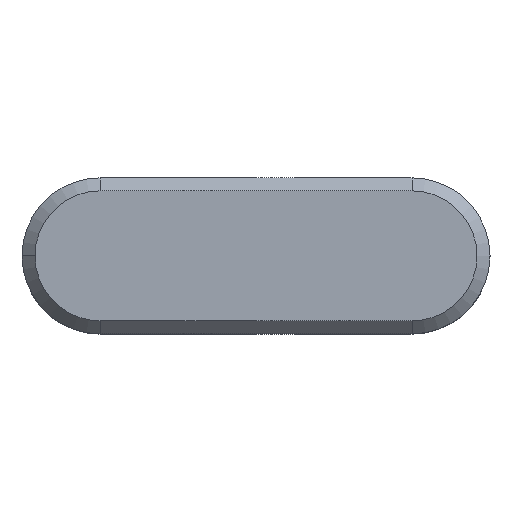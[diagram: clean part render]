
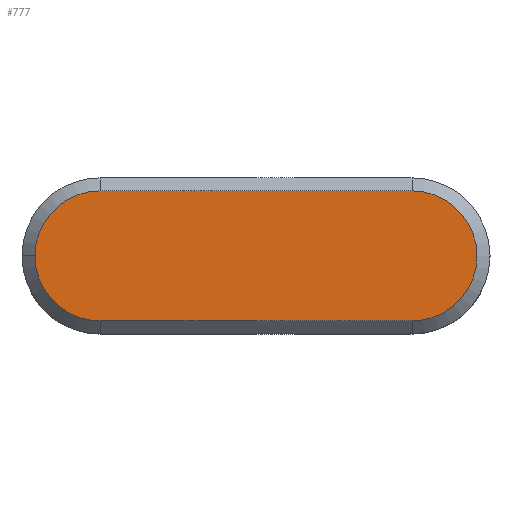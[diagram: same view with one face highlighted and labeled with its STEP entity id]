
A CAD part, top view. The second image highlights one B-rep face of the part: STEP entity #777.
In plain terms, the highlighted planar face has unit normal (0, 0, 1).
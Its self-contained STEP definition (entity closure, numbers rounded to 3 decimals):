
#18 = DIRECTION ( 'NONE',  ( 0., 0., 1. ) ) ;
#26 = VECTOR ( 'NONE', #258, 1000. ) ;
#31 = EDGE_CURVE ( 'NONE', #209, #947, #296, .T. ) ;
#41 = CARTESIAN_POINT ( 'NONE',  ( 0., 0., 7. ) ) ;
#60 = VECTOR ( 'NONE', #534, 1000. ) ;
#131 = LINE ( 'NONE', #474, #60 ) ;
#136 = AXIS2_PLACEMENT_3D ( 'NONE', #41, #735, #388 ) ;
#174 = LINE ( 'NONE', #866, #26 ) ;
#176 = CIRCLE ( 'NONE', #881, 2.5 ) ;
#203 = EDGE_CURVE ( 'NONE', #947, #974, #677, .T. ) ;
#209 = VERTEX_POINT ( 'NONE', #212 ) ;
#212 = CARTESIAN_POINT ( 'NONE',  ( 0., 2.5, 7. ) ) ;
#217 = EDGE_CURVE ( 'NONE', #484, #209, #131, .T. ) ;
#243 = VERTEX_POINT ( 'NONE', #416 ) ;
#255 = ORIENTED_EDGE ( 'NONE', *, *, #333, .T. ) ;
#258 = DIRECTION ( 'NONE',  ( 1., 0., 0. ) ) ;
#264 = CARTESIAN_POINT ( 'NONE',  ( -2.5, 0., 7. ) ) ;
#288 = CARTESIAN_POINT ( 'NONE',  ( 0., -2.5, 7. ) ) ;
#289 = ORIENTED_EDGE ( 'NONE', *, *, #468, .T. ) ;
#296 = CIRCLE ( 'NONE', #480, 2.5 ) ;
#301 = FACE_OUTER_BOUND ( 'NONE', #1081, .T. ) ;
#333 = EDGE_CURVE ( 'NONE', #243, #484, #176, .T. ) ;
#338 = DIRECTION ( 'NONE',  ( 1., 0., 0. ) ) ;
#388 = DIRECTION ( 'NONE',  ( 1., 0., 0. ) ) ;
#395 = CARTESIAN_POINT ( 'NONE',  ( 12., 0., 7. ) ) ;
#400 = DIRECTION ( 'NONE',  ( 1., 0., 0. ) ) ;
#416 = CARTESIAN_POINT ( 'NONE',  ( 12., -2.5, 7. ) ) ;
#468 = EDGE_CURVE ( 'NONE', #974, #243, #174, .T. ) ;
#474 = CARTESIAN_POINT ( 'NONE',  ( 0., 2.5, 7. ) ) ;
#480 = AXIS2_PLACEMENT_3D ( 'NONE', #951, #1044, #338 ) ;
#484 = VERTEX_POINT ( 'NONE', #1125 ) ;
#499 = PLANE ( 'NONE',  #136 ) ;
#523 = ORIENTED_EDGE ( 'NONE', *, *, #203, .T. ) ;
#534 = DIRECTION ( 'NONE',  ( -1., 0., 0. ) ) ;
#651 = CARTESIAN_POINT ( 'NONE',  ( 0., 0., 7. ) ) ;
#677 = CIRCLE ( 'NONE', #789, 2.5 ) ;
#735 = DIRECTION ( 'NONE',  ( 0., 0., 1. ) ) ;
#754 = DIRECTION ( 'NONE',  ( 0., 0., 1. ) ) ;
#775 = ORIENTED_EDGE ( 'NONE', *, *, #31, .T. ) ;
#777 = ADVANCED_FACE ( 'NONE', ( #301 ), #499, .T. ) ;
#789 = AXIS2_PLACEMENT_3D ( 'NONE', #651, #18, #1078 ) ;
#820 = ORIENTED_EDGE ( 'NONE', *, *, #217, .T. ) ;
#866 = CARTESIAN_POINT ( 'NONE',  ( 0., -2.5, 7. ) ) ;
#881 = AXIS2_PLACEMENT_3D ( 'NONE', #395, #754, #400 ) ;
#947 = VERTEX_POINT ( 'NONE', #264 ) ;
#951 = CARTESIAN_POINT ( 'NONE',  ( 0., 0., 7. ) ) ;
#974 = VERTEX_POINT ( 'NONE', #288 ) ;
#1044 = DIRECTION ( 'NONE',  ( 0., 0., 1. ) ) ;
#1078 = DIRECTION ( 'NONE',  ( 1., 0., 0. ) ) ;
#1081 = EDGE_LOOP ( 'NONE', ( #255, #820, #775, #523, #289 ) ) ;
#1125 = CARTESIAN_POINT ( 'NONE',  ( 12., 2.5, 7. ) ) ;
